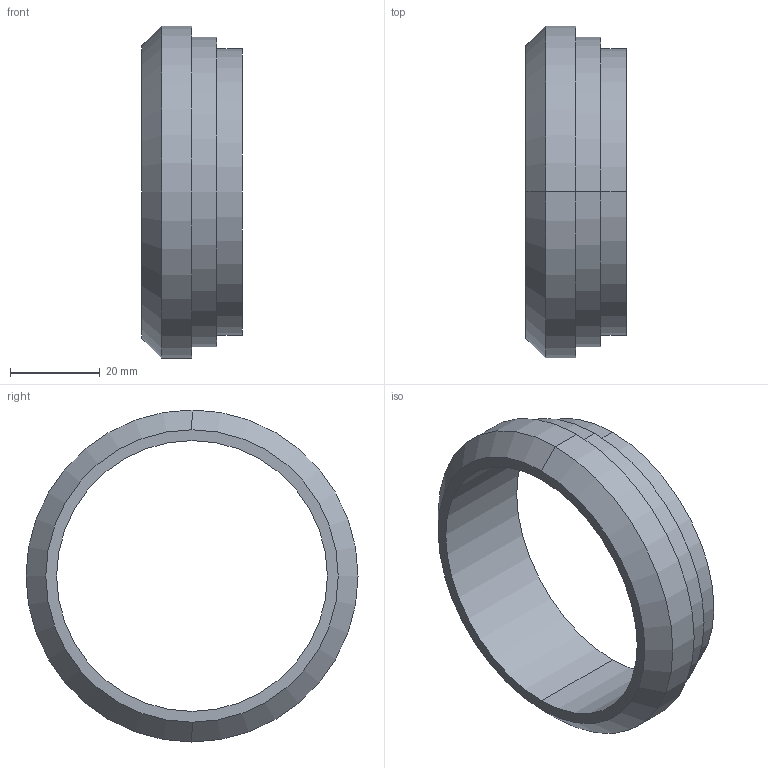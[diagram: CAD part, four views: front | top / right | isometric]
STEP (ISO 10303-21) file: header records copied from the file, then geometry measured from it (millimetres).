
FILE_DESCRIPTION (( 'STEP AP214' ), '1' );
FILE_NAME ('14PR 2.5 REV2.STEP', '2025-08-07T13:59:48', ( '' ), ( '' ), 'SwSTEP 2.0', 'SolidWorks 2022', '' );
FILE_SCHEMA (( 'AUTOMOTIVE_DESIGN' ));
Length unit declared in the file: inch
Products named in the file (1): 14PR 2.5 REV2
Bounding box: 22.3 x 73.81 x 73.81 mm (x, y, z)
Volume: 20602.4 mm3; surface area: 11368.5 mm2
Topology: 1 solids, 1 shells, 14 faces, 28 edges, 18 vertices
Faces by surface type: cylinder 8, plane 4, cone 2
Entity records: 418 total; most frequent: DIRECTION 76, CARTESIAN_POINT 61, ORIENTED_EDGE 56, AXIS2_PLACEMENT_3D 33, EDGE_CURVE 28, CIRCLE 18, VERTEX_POINT 18, EDGE_LOOP 18
